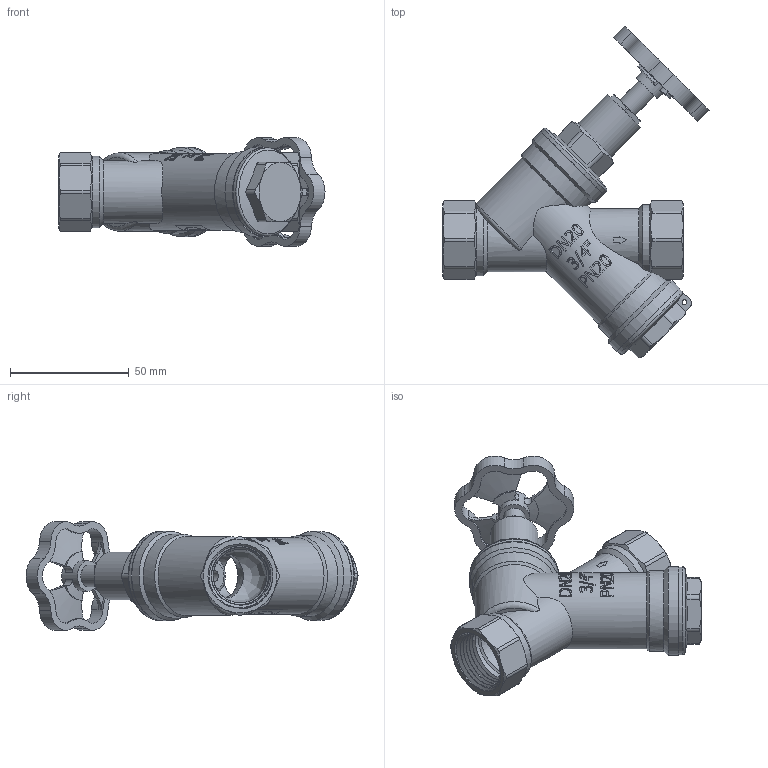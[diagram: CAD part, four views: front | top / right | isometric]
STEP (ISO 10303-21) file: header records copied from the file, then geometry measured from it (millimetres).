
FILE_DESCRIPTION(/* description */ (''),/* implementation_level */ '2;1');
FILE_NAME(/* name */ 'F:\Артём\00000\Работа удаленка\Вентили и задвижки\VT.053.N.05.stp',/* time_stamp */ '2020-11-05T13:56:56+03:00',/* author */ ('almis'),/* organization */ (''),/* preprocessor_version */ 'ST-DEVELOPER v18',/* originating_system */ 'Autodesk Inventor 2020',/* authorisation */ '');
FILE_SCHEMA (('AUTOMOTIVE_DESIGN { 1 0 10303 214 3 1 1 }'));
Length unit declared in the file: millimetre
Products named in the file (1): VT.053.N.05
Bounding box: 111.87 x 139.61 x 45.7 mm (x, y, z)
Volume: 76318.1 mm3; surface area: 45675.2 mm2
Topology: 1 solids, 4 shells, 576 faces, 1639 edges, 1121 vertices
Faces by surface type: plane 213, cylinder 163, bspline 105, cone 88, torus 7
Full cylindrical faces by diameter (mm): 2 x1, 4.5 x1, 5 x1, 6 x2, 6.928 x1, 7.5 x1, 8 x2, 8.485 x1, 9 x1, 10.4 x1, 12 x2, 12.8 x1, 14.1 x1, 14.5 x1, 14.6 x1, 18 x1, 19 x1, 19.038 x1, 20 x1, 22 x1, 22.5 x2, 24.1 x10, 25.5 x1, 27 x1, 27.7 x10, 28.5 x1, 29.5 x1, 30.4 x1, 32 x1, 34 x1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
Entity records: 25794 total; most frequent: CARTESIAN_POINT 12145, ORIENTED_EDGE 3274, DIRECTION 2292, EDGE_CURVE 1637, VERTEX_POINT 1121, AXIS2_PLACEMENT_3D 878, EDGE_LOOP 642, ADVANCED_FACE 576
